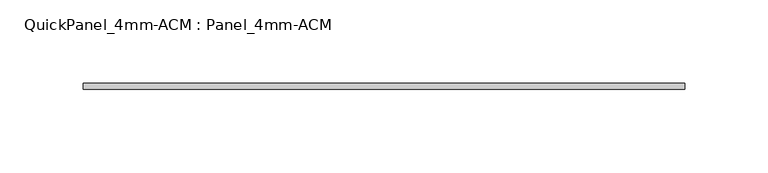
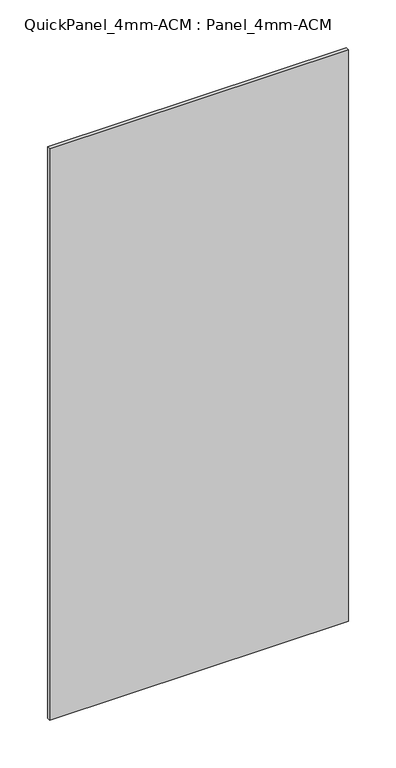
"""IFC4 building model written with IfcOpenShell, lengths in millimetres: plate geometry, QuickPanel_4mm-ACM : Panel_4mm-ACM."""

from ifc_helpers import new_model, si_unit, origin, origin_with_axes, place, context, project, spatial, polyline, outline, extrude, source, transform, mapped, element, save


def quickpanel_4mm_acm_panel_4mm_acm_5b2d26fe(model_context):
    return source(origin(), model_context, "Body", "SweptSolid", [
        extrude(outline(polyline([(-180.9660725, -6.096), (180.9660725, -6.096), (180.9660725, -9.906), (-180.9660725, -9.906), (-180.9660725, -6.096)])), origin_with_axes(), (0.0, 0.0, 1.0), 731.7531744),
    ])


if __name__ == "__main__":
    model = new_model("IFC4")
    model_context = context("Model", 3, world=origin())
    ifc_project = project(units=[si_unit("LENGTHUNIT", "METRE", prefix="MILLI")], contexts=[model_context])
    site = spatial("IfcSite", under=ifc_project)
    building = spatial("IfcBuilding", under=site)
    placement = place(None, origin())
    quickpanel_4mm_acm_panel_4mm_acm_shape = quickpanel_4mm_acm_panel_4mm_acm_5b2d26fe(model_context)
    element("IfcPlate", 1, ObjectType="QuickPanel_4mm-ACM : Panel_4mm-ACM", at=placement, inside=building, context=model_context, shape_type="MappedRepresentation", body=[
        mapped(quickpanel_4mm_acm_panel_4mm_acm_shape, transform((0.0, 0.0, 0.0), x_axis=(1.0, 0.0, 0.0), y_axis=(0.0, 1.0, 0.0), z_axis=(0.0, 0.0, 1.0))),
    ])
    save(model, "model.ifc")
